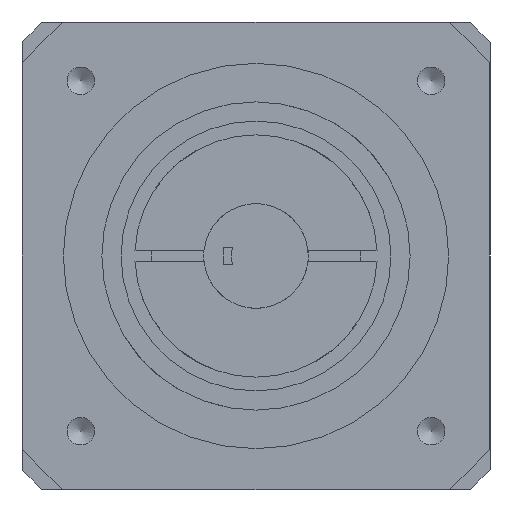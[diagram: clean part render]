
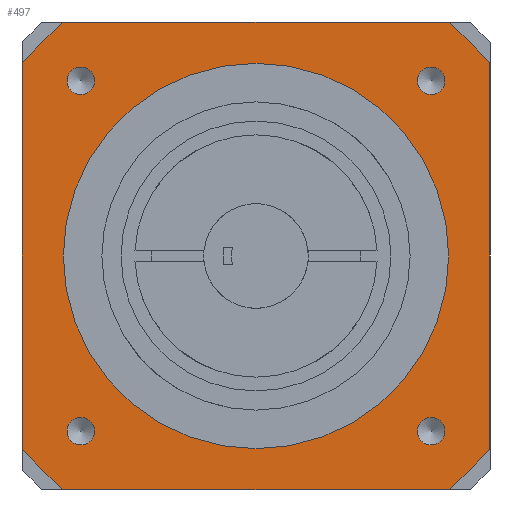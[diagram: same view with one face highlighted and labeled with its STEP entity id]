
A CAD part, left-side view. The second image highlights one B-rep face of the part: STEP entity #497.
In plain terms, the highlighted planar face has unit normal (-1, 0, 0).
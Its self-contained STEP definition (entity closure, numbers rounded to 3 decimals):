
#234=LINE('',#3427,#318);
#238=LINE('',#3436,#322);
#242=LINE('',#3447,#326);
#246=LINE('',#3456,#330);
#318=VECTOR('',#2749,1.);
#322=VECTOR('',#2755,1.);
#326=VECTOR('',#2763,1.);
#330=VECTOR('',#2769,1.);
#426=PLANE('',#2391);
#497=ADVANCED_FACE('',(#746,#747,#748,#749,#750,#751),#426,.F.);
#746=FACE_BOUND('',#1019,.T.);
#747=FACE_BOUND('',#1020,.T.);
#748=FACE_BOUND('',#1021,.T.);
#749=FACE_BOUND('',#1022,.T.);
#750=FACE_BOUND('',#1023,.T.);
#751=FACE_BOUND('',#1024,.T.);
#1019=EDGE_LOOP('',(#1442));
#1020=EDGE_LOOP('',(#1443));
#1021=EDGE_LOOP('',(#1444));
#1022=EDGE_LOOP('',(#1445));
#1023=EDGE_LOOP('',(#1446));
#1024=EDGE_LOOP('',(#1447,#1448,#1449,#1450,#1451,#1452,#1453,#1454));
#1442=ORIENTED_EDGE('',*,*,#2037,.F.);
#1443=ORIENTED_EDGE('',*,*,#2038,.F.);
#1444=ORIENTED_EDGE('',*,*,#2039,.F.);
#1445=ORIENTED_EDGE('',*,*,#2040,.F.);
#1446=ORIENTED_EDGE('',*,*,#2041,.T.);
#1447=ORIENTED_EDGE('',*,*,#2007,.T.);
#1448=ORIENTED_EDGE('',*,*,#2035,.F.);
#1449=ORIENTED_EDGE('',*,*,#2020,.T.);
#1450=ORIENTED_EDGE('',*,*,#2033,.F.);
#1451=ORIENTED_EDGE('',*,*,#2016,.T.);
#1452=ORIENTED_EDGE('',*,*,#2034,.F.);
#1453=ORIENTED_EDGE('',*,*,#2011,.T.);
#1454=ORIENTED_EDGE('',*,*,#2036,.F.);
#1776=VERTEX_POINT('',#3421);
#1779=VERTEX_POINT('',#3426);
#1780=VERTEX_POINT('',#3430);
#1783=VERTEX_POINT('',#3435);
#1785=VERTEX_POINT('',#3441);
#1788=VERTEX_POINT('',#3446);
#1789=VERTEX_POINT('',#3450);
#1792=VERTEX_POINT('',#3455);
#1801=VERTEX_POINT('',#3492);
#1802=VERTEX_POINT('',#3494);
#1803=VERTEX_POINT('',#3496);
#1804=VERTEX_POINT('',#3498);
#1805=VERTEX_POINT('',#3500);
#2007=EDGE_CURVE('',#1776,#1779,#234,.T.);
#2011=EDGE_CURVE('',#1780,#1783,#238,.T.);
#2016=EDGE_CURVE('',#1785,#1788,#242,.T.);
#2020=EDGE_CURVE('',#1789,#1792,#246,.T.);
#2033=EDGE_CURVE('',#1785,#1792,#2212,.T.);
#2034=EDGE_CURVE('',#1780,#1788,#2213,.T.);
#2035=EDGE_CURVE('',#1789,#1779,#2214,.T.);
#2036=EDGE_CURVE('',#1776,#1783,#2215,.T.);
#2037=EDGE_CURVE('',#1801,#1801,#2216,.T.);
#2038=EDGE_CURVE('',#1802,#1802,#2217,.T.);
#2039=EDGE_CURVE('',#1803,#1803,#2218,.T.);
#2040=EDGE_CURVE('',#1804,#1804,#2219,.T.);
#2041=EDGE_CURVE('',#1805,#1805,#2220,.T.);
#2212=CIRCLE('',#2378,55.);
#2213=CIRCLE('',#2380,55.);
#2214=CIRCLE('',#2382,55.);
#2215=CIRCLE('',#2384,55.);
#2216=CIRCLE('',#2386,2.5);
#2217=CIRCLE('',#2387,2.5);
#2218=CIRCLE('',#2388,2.5);
#2219=CIRCLE('',#2389,2.5);
#2220=CIRCLE('',#2390,35.);
#2378=AXIS2_PLACEMENT_3D('',#3483,#2806,#2807);
#2380=AXIS2_PLACEMENT_3D('',#3485,#2810,#2811);
#2382=AXIS2_PLACEMENT_3D('',#3487,#2814,#2815);
#2384=AXIS2_PLACEMENT_3D('',#3489,#2818,#2819);
#2386=AXIS2_PLACEMENT_3D('',#3491,#2822,#2823);
#2387=AXIS2_PLACEMENT_3D('',#3493,#2824,#2825);
#2388=AXIS2_PLACEMENT_3D('',#3495,#2826,#2827);
#2389=AXIS2_PLACEMENT_3D('',#3497,#2828,#2829);
#2390=AXIS2_PLACEMENT_3D('',#3499,#2830,#2831);
#2391=AXIS2_PLACEMENT_3D('',#3501,#2832,#2833);
#2749=DIRECTION('',(0.,1.,0.));
#2755=DIRECTION('',(0.,0.,1.));
#2763=DIRECTION('',(0.,-1.,0.));
#2769=DIRECTION('',(0.,0.,-1.));
#2806=DIRECTION('',(1.,0.,0.));
#2807=DIRECTION('',(0.,0.,-1.));
#2810=DIRECTION('',(1.,0.,0.));
#2811=DIRECTION('',(0.,0.,-1.));
#2814=DIRECTION('',(1.,0.,0.));
#2815=DIRECTION('',(0.,0.,-1.));
#2818=DIRECTION('',(1.,0.,0.));
#2819=DIRECTION('',(0.,0.,-1.));
#2822=DIRECTION('',(-1.,0.,0.));
#2823=DIRECTION('',(0.,0.,1.));
#2824=DIRECTION('',(-1.,0.,0.));
#2825=DIRECTION('',(0.,0.,1.));
#2826=DIRECTION('',(-1.,0.,0.));
#2827=DIRECTION('',(0.,0.,1.));
#2828=DIRECTION('',(-1.,0.,0.));
#2829=DIRECTION('',(0.,0.,1.));
#2830=DIRECTION('',(1.,0.,0.));
#2831=DIRECTION('',(0.,0.,-1.));
#2832=DIRECTION('',(1.,0.,0.));
#2833=DIRECTION('',(0.,0.,1.));
#3421=CARTESIAN_POINT('',(-76.25,-34.911,42.5));
#3426=CARTESIAN_POINT('',(-76.25,34.911,42.5));
#3427=CARTESIAN_POINT('',(-76.25,42.5,42.5));
#3430=CARTESIAN_POINT('',(-76.25,-42.5,-34.911));
#3435=CARTESIAN_POINT('',(-76.25,-42.5,34.911));
#3436=CARTESIAN_POINT('',(-76.25,-42.5,-42.5));
#3441=CARTESIAN_POINT('',(-76.25,34.911,-42.5));
#3446=CARTESIAN_POINT('',(-76.25,-34.911,-42.5));
#3447=CARTESIAN_POINT('',(-76.25,42.5,-42.5));
#3450=CARTESIAN_POINT('',(-76.25,42.5,34.911));
#3455=CARTESIAN_POINT('',(-76.25,42.5,-34.911));
#3456=CARTESIAN_POINT('',(-76.25,42.5,-42.5));
#3483=CARTESIAN_POINT('',(-76.25,0.,0.));
#3485=CARTESIAN_POINT('',(-76.25,0.,0.));
#3487=CARTESIAN_POINT('',(-76.25,0.,0.));
#3489=CARTESIAN_POINT('',(-76.25,0.,0.));
#3491=CARTESIAN_POINT('',(-76.25,31.82,-31.82));
#3492=CARTESIAN_POINT('',(-76.25,31.82,-29.32));
#3493=CARTESIAN_POINT('',(-76.25,-31.82,-31.82));
#3494=CARTESIAN_POINT('',(-76.25,-31.82,-29.32));
#3495=CARTESIAN_POINT('',(-76.25,-31.82,31.82));
#3496=CARTESIAN_POINT('',(-76.25,-31.82,34.32));
#3497=CARTESIAN_POINT('',(-76.25,31.82,31.82));
#3498=CARTESIAN_POINT('',(-76.25,31.82,34.32));
#3499=CARTESIAN_POINT('',(-76.25,0.,0.));
#3500=CARTESIAN_POINT('',(-76.25,0.,-35.));
#3501=CARTESIAN_POINT('',(-76.25,55.,0.));
